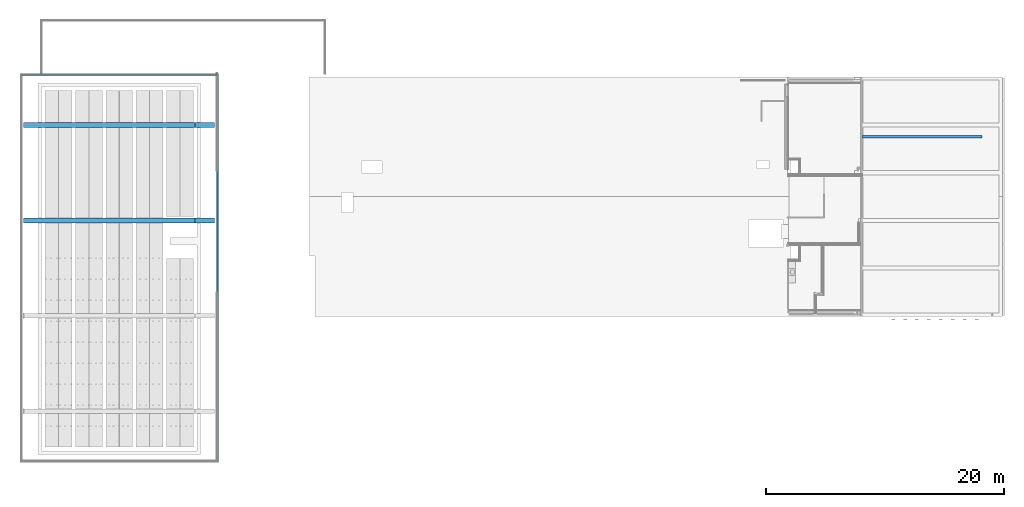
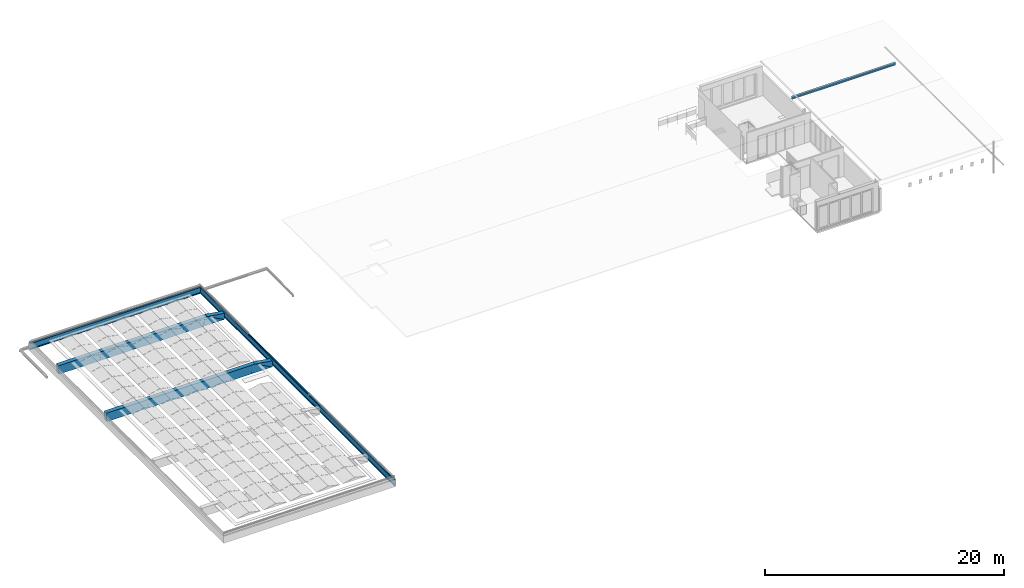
# One storey, part 3 of 25: 7 beams.
"""IFC2X3 building model written with IfcOpenShell, lengths in millimetres."""

from ifc_helpers import new_model, entity, si_unit, converted_unit, derived_unit, money_unit, direction, frame, origin_with_axes, place, context, subcontext, project, spatial, faceted_brep, material, type_object, element, save


model = new_model("IFC2X3")

# Units and contexts
model_context = context("Model", 3, precision=0.01, world=origin_with_axes(), true_north=direction((0.0, 1.0)))
body_context = subcontext(model_context, "Body", "Model", "MODEL_VIEW")
ifc_project = project(units=[si_unit("LENGTHUNIT", "METRE", prefix="MILLI"), si_unit("AREAUNIT", "SQUARE_METRE"), si_unit("VOLUMEUNIT", "CUBIC_METRE"), converted_unit("PLANEANGLEUNIT", "DEGREE", entity("IfcPlaneAngleMeasure", 0.0174532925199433), si_unit("PLANEANGLEUNIT", "RADIAN"), dimensions=[0, 0, 0, 0, 0, 0, 0]), money_unit("EUR"), converted_unit("TIMEUNIT", "Year", entity("IfcTimeMeasure", 31557600.0), si_unit("TIMEUNIT", "SECOND"), dimensions=[0, 0, 1, 0, 0, 0, 0]), si_unit("MASSUNIT", "GRAM", prefix="KILO"), si_unit("THERMODYNAMICTEMPERATUREUNIT", "DEGREE_CELSIUS"), si_unit("LUMINOUSINTENSITYUNIT", "LUMEN"), si_unit("ENERGYUNIT", "JOULE", prefix="MEGA"), derived_unit("THERMALCONDUCTANCEUNIT", [(si_unit("POWERUNIT", "WATT"), 1), (si_unit("LENGTHUNIT", "METRE"), -1), (si_unit("THERMODYNAMICTEMPERATUREUNIT", "KELVIN"), -1)]), derived_unit("SPECIFICHEATCAPACITYUNIT", [(si_unit("ENERGYUNIT", "JOULE"), 1), (si_unit("MASSUNIT", "GRAM", prefix="KILO"), -1), (si_unit("THERMODYNAMICTEMPERATUREUNIT", "KELVIN"), -1)]), derived_unit("MASSDENSITYUNIT", [(si_unit("MASSUNIT", "GRAM", prefix="KILO"), 1), (si_unit("VOLUMEUNIT", "CUBIC_METRE"), -1)])], contexts=[model_context])

# Site, building, storey
site_placement = place(None, origin_with_axes())
site = spatial("IfcSite", under=ifc_project, at=site_placement, Name="<site naam>", CompositionType="ELEMENT")
building_placement = place(site_placement, origin_with_axes())
building = spatial("IfcBuilding", under=site, at=building_placement, Name="<Naam gebouw>", CompositionType="ELEMENT")
storey_placement = place(building_placement, frame((0.0, 0.0, 9563.0), z_axis=(0.0, 0.0, 1.0), x_axis=(1.0, 0.0, 0.0)))
storey = spatial("IfcBuildingStorey", under=building, at=storey_placement, Name="03 3e tussenverdieping", CompositionType="ELEMENT", Elevation=9563.0)

# Beams
ifc_material_1 = material(Name="beton_gewapend_prefab")
beam_type_1 = type_object("IfcBeamType", Name="Betonbanden 160 x 760", PredefinedType="BEAM")
beam_1_placement = place(storey_placement, frame((4275.044468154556, -12274.99008809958, -992.9999592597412), z_axis=(0.0, 0.0, 1.0), x_axis=(1.0, 0.0, 0.0)))
element("IfcBeam", 1, at=beam_1_placement, inside=storey, type_object=beam_type_1, material=ifc_material_1, Name="41_Balk_Betonbanden", ObjectType="BEAM", context=body_context, shape_type="Brep", body=[
    faceted_brep([(4.298054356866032e-06, 19954.99008809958, -100.0000407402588), (4.298053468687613e-06, 19954.99008809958, -220.000040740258), (4.298053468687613e-06, 24274.99008809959, -220.000040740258), (4.298053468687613e-06, 24274.99008809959, -100.0000407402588), (4.298053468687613e-06, 32549.9900880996, -100.0000001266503), (4.298053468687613e-06, 32549.9900880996, -690.0000385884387), (4.298053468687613e-06, 0.0, -690.0000385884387), (4.298053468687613e-06, 0.0, -100.0000001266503), (59.99999757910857, 19954.99008809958, -100.0000407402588), (59.99999757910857, 19954.99008809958, -220.000040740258), (59.99999757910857, 24274.99008809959, -220.000040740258), (59.99999757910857, 24274.99008809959, -100.0000407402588), (-100.000007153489, 0.0, -100.0000001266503), (-100.000007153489, 32549.9900880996, -100.0000001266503), (-100.000007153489, 32549.9900880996, 0.0), (-60.00000030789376, 32549.9900880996, 0.0), (-60.00000030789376, 32549.9900880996, -30.00000230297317), (59.99999757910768, 32549.9900880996, -30.00000230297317), (59.99999757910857, 32549.9900880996, -759.9999375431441), (29.99999527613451, 32549.9900880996, -759.9999375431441), (29.99999527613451, 32549.9900880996, -730.0000145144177), (4.298053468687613e-06, 32549.9900880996, -730.0000145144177), (4.298053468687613e-06, 32549.9900880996, -759.9999375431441), (-60.00000030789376, 32549.9900880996, -759.9999375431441), (-60.00000030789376, 32549.9900880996, -660.0000280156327), (-29.9999980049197, 32549.9900880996, -660.0000280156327), (-29.9999980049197, 32549.9900880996, -690.0000385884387), (-29.9999980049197, 0.0, -690.0000385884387), (29.99999527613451, 0.0, -759.9999375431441), (59.99999757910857, 0.0, -759.9999375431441), (59.99999757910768, 0.0, -30.00000230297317), (-60.00000030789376, 0.0, -30.00000230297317), (-60.00000030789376, 0.0, 0.0), (-100.000007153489, 0.0, 0.0), (-29.9999980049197, 0.0, -660.0000280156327), (-60.00000030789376, 0.0, -660.0000280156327), (-60.00000030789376, 0.0, -759.9999375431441), (4.298053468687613e-06, 0.0, -759.9999375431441), (4.298053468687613e-06, 0.0, -730.0000145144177), (29.99999527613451, 0.0, -730.0000145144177)], [[[0, 1, 2, 3, 4, 5, 6, 7]], [[0, 8, 9, 1]], [[1, 9, 10, 2]], [[2, 10, 11, 3]], [[4, 3, 0, 7, 12, 13]], [[13, 14, 15, 16, 17, 18, 19, 20, 21, 22, 23, 24, 25, 26, 5, 4]], [[26, 27, 6, 5]], [[28, 29, 30, 31, 32, 33, 12, 7, 6, 27, 34, 35, 36, 37, 38, 39]], [[3, 11, 8, 0]], [[17, 30, 29, 18], [10, 9, 8, 11]], [[13, 12, 33, 14]], [[14, 33, 32, 15]], [[15, 32, 31, 16]], [[16, 31, 30, 17]], [[18, 29, 28, 19]], [[19, 28, 39, 20]], [[20, 39, 38, 21]], [[21, 38, 37, 22]], [[22, 37, 36, 23]], [[23, 36, 35, 24]], [[24, 35, 34, 25]], [[25, 34, 27, 26]]]),
])
beam_2_placement = place(storey_placement, frame((4275.044468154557, 20265.00000000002, -992.9999592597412), z_axis=(0.0, 0.0, 1.0), x_axis=(0.0, 1.0, 0.0)))
element("IfcBeam", 2, at=beam_2_placement, inside=storey, type_object=beam_type_1, material=ifc_material_1, Name="41_Balk_Betonbanden", ObjectType="BEAM", context=body_context, shape_type="Brep", body=[
    faceted_brep([(-60.00000030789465, 100.0000071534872, -30.00000230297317), (10.00000000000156, 100.000007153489, -30.00000230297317), (10.00000000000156, 60.00000030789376, -30.00000230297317), (10.00000000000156, -59.9999975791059, -30.00000230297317), (59.99999757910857, -59.9999975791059, -30.00000230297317), (59.99999757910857, 16600.04446573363, -30.00000230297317), (10.00000000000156, 16600.04446573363, -30.00000230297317), (10.00000000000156, 16480.04446784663, -30.00000230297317), (10.00000000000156, 16440.04446100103, -30.00000230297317), (-60.0000003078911, 16440.04446100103, -30.00000230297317), (10.00000000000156, 100.000007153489, -100.0000001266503), (-60.00000030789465, 100.000007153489, 0.0), (-100.0000071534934, 100.000007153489, 0.0), (-100.0000071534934, 100.000007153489, -100.0000001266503), (4.298051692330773e-06, 100.000007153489, -100.0000001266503), (10.00000000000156, 60.00000030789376, -730.0000145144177), (10.00000000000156, -59.99999757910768, -730.0000145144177), (10.00000000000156, -4.298052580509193e-06, -100.0000001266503), (10.00000000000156, -4.298052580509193e-06, -660.0000280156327), (10.00000000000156, 60.00000030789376, -660.0000280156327), (29.99999527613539, -59.9999975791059, -730.0000145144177), (29.99999527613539, -59.9999975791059, -759.9999375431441), (59.99999757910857, -59.9999975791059, -759.9999375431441), (59.99999757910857, 16600.04446573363, -759.9999375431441), (29.99999527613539, 16600.04446573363, -759.9999375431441), (29.99999527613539, 16600.04446573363, -730.0000145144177), (10.00000000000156, 16600.04446573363, -730.0000145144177), (10.00000000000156, 16540.04447245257, -100.0000001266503), (10.00000000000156, 16440.04446100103, -100.0000001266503), (10.00000000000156, 16480.04446784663, -730.0000145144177), (10.00000000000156, 16480.04446784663, -660.0000280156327), (10.00000000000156, 16540.04447245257, -660.0000280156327), (-100.0000071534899, 16440.04446100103, 0.0), (-60.0000003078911, 16440.04446100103, 0.0), (4.298055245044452e-06, 16440.04446100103, -100.0000001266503), (-100.0000071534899, 16440.04446100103, -100.0000001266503), (4.298051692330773e-06, -4.298052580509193e-06, -100.0000001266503), (4.298051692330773e-06, 60.00000030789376, -730.0000145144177), (4.298055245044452e-06, 16480.04446784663, -730.0000145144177), (4.298051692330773e-06, -4.298052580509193e-06, -660.0000280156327), (4.298051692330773e-06, 60.00000030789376, -660.0000280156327), (4.298051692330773e-06, 60.00000030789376, -759.9999375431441), (4.298051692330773e-06, 60.00000030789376, -690.0000385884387), (-29.99999800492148, 60.00000030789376, -690.0000385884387), (-29.99999800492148, 60.00000030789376, -660.0000280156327), (-60.00000030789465, 60.00000030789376, -660.0000280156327), (-60.00000030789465, 60.00000030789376, -759.9999375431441), (4.298055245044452e-06, 16540.04447245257, -100.0000001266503), (4.298051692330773e-06, 16480.04446784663, -660.0000280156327), (4.298055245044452e-06, 16480.04446784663, -759.9999375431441), (-60.0000003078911, 16480.04446784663, -759.9999375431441), (-60.0000003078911, 16480.04446784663, -660.0000280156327), (-29.99999800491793, 16480.04446784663, -660.0000280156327), (-29.99999800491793, 16480.04446784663, -690.0000385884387), (4.298055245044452e-06, 16480.04446784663, -690.0000385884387), (4.298051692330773e-06, 16540.04447245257, -660.0000280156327)], [[[0, 1, 2, 3, 4, 5, 6, 7, 8, 9]], [[10, 1, 0, 11, 12, 13, 14]], [[15, 16, 3, 2, 1, 10, 17, 18, 19]], [[4, 3, 16, 20, 21, 22]], [[23, 5, 4, 22]], [[24, 25, 26, 6, 5, 23]], [[27, 28, 8, 7, 6, 26, 29, 30, 31]], [[32, 33, 9, 8, 28, 34, 35]], [[33, 11, 0, 9]], [[32, 12, 11, 33]], [[35, 13, 12, 32]], [[34, 14, 13, 35]], [[10, 14, 36, 17]], [[16, 15, 37, 38, 29, 26, 25, 20]], [[17, 36, 39, 18]], [[18, 39, 40, 19]], [[41, 37, 15, 19, 40, 42, 43, 44, 45, 46]], [[25, 24, 21, 20]], [[24, 23, 22, 21]], [[28, 27, 47, 34]], [[48, 30, 29, 38, 49, 50, 51, 52, 53, 54]], [[31, 30, 48, 55]], [[27, 31, 55, 47]], [[39, 36, 14, 34, 47, 55, 48, 54, 42, 40]], [[38, 37, 41, 49]], [[53, 43, 42, 54]], [[52, 44, 43, 53]], [[51, 45, 44, 52]], [[50, 46, 45, 51]], [[49, 41, 46, 50]]]),
])
ifc_material_2 = material(Name="staal C")
beam_type_2 = type_object("IfcBeamType", Name="HEB220 220 x 220", PredefinedType="BEAM")
beam_3_placement = place(storey_placement, frame((58317.78284470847, 15024.75000000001, 2431.500000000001), z_axis=(0.0, 0.0, 1.0), x_axis=(0.0, -1.0, 0.0)))
element("IfcBeam", 3, at=beam_3_placement, inside=storey, type_object=beam_type_2, material=ifc_material_2, Name="28_Balk_HEB220", ObjectType="BEAM", context=body_context, shape_type="Brep", body=[
    faceted_brep([(-109.9999999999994, 0.0, 115.5000000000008), (-110.0000000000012, 10057.26566737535, 115.5000000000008), (-110.0000000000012, 10057.26566737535, 99.50000000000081), (-109.9999999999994, 0.0, 99.50000000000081), (109.9999999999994, 0.0, 115.5000000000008), (109.9999999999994, 10057.26566737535, 115.5000000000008), (109.9999999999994, 10057.26566737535, 99.50000000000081), (4.749999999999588, 10057.26566737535, 99.50000000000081), (4.749999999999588, 10057.26566737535, -88.4999999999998), (109.9999999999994, 10057.26566737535, -88.4999999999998), (109.9999999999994, 10057.26566737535, -104.4999999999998), (-110.0000000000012, 10057.26566737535, -104.4999999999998), (-110.0000000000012, 10057.26566737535, -88.4999999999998), (-4.750000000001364, 10057.26566737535, -88.4999999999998), (-4.750000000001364, 10057.26566737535, 99.50000000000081), (-4.749999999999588, 0.0, 99.50000000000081), (-4.749999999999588, 0.0, -88.4999999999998), (-109.9999999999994, 0.0, -88.4999999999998), (-109.9999999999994, 0.0, -104.4999999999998), (109.9999999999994, 0.0, -104.4999999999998), (109.9999999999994, 0.0, -88.4999999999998), (4.749999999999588, 0.0, -88.4999999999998), (4.749999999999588, 0.0, 99.50000000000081), (109.9999999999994, 0.0, 99.50000000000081)], [[[0, 1, 2, 3]], [[4, 5, 1, 0]], [[2, 1, 5, 6, 7, 8, 9, 10, 11, 12, 13, 14]], [[3, 2, 14, 15]], [[4, 0, 3, 15, 16, 17, 18, 19, 20, 21, 22, 23]], [[23, 6, 5, 4]], [[22, 7, 6, 23]], [[21, 8, 7, 22]], [[20, 9, 8, 21]], [[19, 10, 9, 20]], [[18, 11, 10, 19]], [[17, 12, 11, 18]], [[16, 13, 12, 17]], [[15, 14, 13, 16]]]),
])
beam_type_3 = type_object("IfcBeamType", Name="beton_gewapend_prefab 400 x 880", PredefinedType="BEAM")
beam_4_placement = place(storey_placement, frame((-10349.99999999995, 8000.000000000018, -773.0000000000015), z_axis=(0.0, 0.0, 1.0), x_axis=(0.0, -1.0, 0.0)))
element("IfcBeam", 4, at=beam_4_placement, inside=storey, type_object=beam_type_3, material=ifc_material_1, Name="28_Balk_beton_gewapend_prefab", ObjectType="BEAM", context=body_context, shape_type="Brep", body=[
    faceted_brep([(200.0000000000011, -1625.067700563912, -879.9999999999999), (199.9999999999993, 14350.00064523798, -879.9999999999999), (200.0000000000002, 12700.0, 0.0), (200.0000000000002, -1685.000000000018, 0.0), (199.9999999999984, 12293.49995746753, -730.0002447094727), (199.9999999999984, 12293.49999705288, -715.9002124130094), (199.9999999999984, 12345.30019652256, -715.9002124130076), (199.9999999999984, 12345.30019652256, -484.0999999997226), (199.9999999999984, 12293.49999705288, -484.0999999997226), (199.9999999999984, 12293.49995746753, -469.9999999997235), (199.9999999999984, 12406.5004355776, -469.9999999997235), (199.9999999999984, 12406.50039599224, -484.0999999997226), (199.9999999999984, 12354.70019652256, -484.0999999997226), (199.9999999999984, 12354.70019652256, -715.9002124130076), (199.9999999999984, 12406.50039599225, -715.9002124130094), (199.9999999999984, 12406.5004355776, -730.0002447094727), (200.0000000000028, 10293.49999705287, -715.9002124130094), (200.0000000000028, 10345.30019652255, -715.9002124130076), (200.0000000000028, 10345.30019652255, -484.0999999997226), (200.0000000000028, 10293.49999705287, -484.0999999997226), (200.0000000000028, 10293.49995746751, -469.9999999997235), (200.0000000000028, 10406.50043557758, -469.9999999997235), (200.0000000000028, 10406.50039599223, -484.0999999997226), (200.0000000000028, 10354.70019652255, -484.0999999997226), (200.0000000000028, 10354.70019652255, -715.9002124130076), (200.0000000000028, 10406.50039599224, -715.9002124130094), (200.0000000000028, 10406.50043557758, -730.0002447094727), (200.0000000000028, 10293.49995746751, -730.0002447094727), (200.0000000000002, 6345.299999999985, -715.9002124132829), (200.0000000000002, 6345.299999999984, -484.099999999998), (200.0000000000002, 6293.499800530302, -484.099999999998), (200.0000000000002, 6293.499760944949, -469.9999999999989), (200.0000000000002, 6406.500239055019, -469.9999999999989), (200.0000000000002, 6406.500199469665, -484.099999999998), (200.0000000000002, 6354.699999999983, -484.099999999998), (200.0000000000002, 6354.699999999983, -715.9002124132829), (200.0000000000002, 6406.500199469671, -715.9002124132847), (200.0000000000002, 6406.500239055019, -730.000244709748), (200.0000000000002, 6293.499760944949, -730.000244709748), (200.0000000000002, 6293.499800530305, -715.9002124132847), (199.9999999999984, 2345.300196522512, -484.0999992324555), (199.9999999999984, 2293.499997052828, -484.0999992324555), (199.9999999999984, 2293.499957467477, -469.9999992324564), (199.9999999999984, 2406.500435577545, -469.9999992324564), (199.9999999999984, 2406.500395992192, -484.0999992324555), (199.9999999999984, 2354.700196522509, -484.0999992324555), (199.9999999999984, 2354.700196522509, -715.9002116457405), (199.9999999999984, 2406.500395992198, -715.9002116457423), (199.9999999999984, 2406.500435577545, -730.0002439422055), (199.9999999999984, 2293.499957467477, -730.0002439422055), (199.9999999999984, 2293.499997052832, -715.9002116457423), (199.9999999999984, 2345.300196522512, -715.9002116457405), (-199.9999999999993, -1625.067700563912, -879.9999999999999), (-199.9999999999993, 14350.00064523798, -879.9999999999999), (-200.0000000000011, 12700.0, 0.0), (-199.9999999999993, -1685.000000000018, 0.0), (-200.0000000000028, 12293.49995746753, -730.0002447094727), (-200.0000000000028, 12293.49999705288, -715.9002124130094), (-200.0000000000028, 12345.30019652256, -715.9002124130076), (-200.0000000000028, 12345.30019652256, -484.0999999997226), (-200.0000000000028, 12293.49999705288, -484.0999999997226), (-200.0000000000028, 12293.49995746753, -469.9999999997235), (-200.0000000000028, 12406.5004355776, -469.9999999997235), (-200.0000000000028, 12406.50039599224, -484.0999999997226), (-200.0000000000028, 12354.70019652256, -484.0999999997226), (-200.0000000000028, 12354.70019652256, -715.9002124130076), (-200.0000000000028, 12406.50039599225, -715.9002124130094), (-200.0000000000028, 12406.5004355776, -730.0002447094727), (-199.9999999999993, 10345.30019652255, -715.9002124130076), (-199.9999999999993, 10293.49999705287, -715.9002124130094), (-199.9999999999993, 10345.30019652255, -484.0999999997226), (-199.9999999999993, 10293.49999705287, -484.0999999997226), (-199.9999999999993, 10293.49995746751, -469.9999999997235), (-199.9999999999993, 10406.50043557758, -469.9999999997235), (-199.9999999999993, 10406.50039599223, -484.0999999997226), (-199.9999999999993, 10354.70019652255, -484.0999999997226), (-199.9999999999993, 10354.70019652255, -715.9002124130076), (-199.9999999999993, 10406.50039599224, -715.9002124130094), (-199.9999999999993, 10406.50043557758, -730.0002447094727), (-199.9999999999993, 10293.49995746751, -730.0002447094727), (-200.0000000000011, 6345.299999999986, -715.9002124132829), (-200.0000000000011, 6345.299999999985, -484.099999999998), (-200.0000000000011, 6293.499800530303, -484.099999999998), (-200.0000000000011, 6293.49976094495, -469.9999999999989), (-200.0000000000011, 6406.500239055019, -469.9999999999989), (-200.0000000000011, 6406.500199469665, -484.099999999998), (-200.0000000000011, 6354.699999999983, -484.099999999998), (-200.0000000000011, 6354.699999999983, -715.9002124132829), (-200.0000000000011, 6406.500199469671, -715.9002124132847), (-200.0000000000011, 6406.500239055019, -730.000244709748), (-200.0000000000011, 6293.49976094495, -730.000244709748), (-200.0000000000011, 6293.499800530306, -715.9002124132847), (-200.0000000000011, 2345.300196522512, -484.0999992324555), (-200.0000000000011, 2293.499997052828, -484.0999992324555), (-200.0000000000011, 2293.499957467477, -469.9999992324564), (-200.0000000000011, 2406.500435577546, -469.9999992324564), (-200.0000000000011, 2406.500395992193, -484.0999992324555), (-200.0000000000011, 2354.70019652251, -484.0999992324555), (-200.0000000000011, 2354.70019652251, -715.9002116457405), (-200.0000000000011, 2406.500395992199, -715.9002116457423), (-200.0000000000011, 2406.500435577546, -730.0002439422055), (-200.0000000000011, 2293.499957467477, -730.0002439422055), (-200.0000000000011, 2293.499997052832, -715.9002116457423), (-200.0000000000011, 2345.300196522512, -715.9002116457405)], [[[0, 1, 2, 3], [4, 5, 6, 7, 8, 9, 10, 11, 12, 13, 14, 15], [16, 17, 18, 19, 20, 21, 22, 23, 24, 25, 26, 27], [28, 29, 30, 31, 32, 33, 34, 35, 36, 37, 38, 39], [40, 41, 42, 43, 44, 45, 46, 47, 48, 49, 50, 51]], [[52, 53, 1, 0]], [[1, 53, 54, 2]], [[3, 2, 54, 55]], [[55, 52, 0, 3]], [[56, 57, 5, 4]], [[57, 58, 6, 5]], [[58, 59, 7, 6]], [[59, 60, 8, 7]], [[60, 61, 9, 8]], [[61, 62, 10, 9]], [[62, 63, 11, 10]], [[63, 64, 12, 11]], [[64, 65, 13, 12]], [[65, 66, 14, 13]], [[66, 67, 15, 14]], [[67, 56, 4, 15]], [[68, 17, 16, 69]], [[70, 18, 17, 68]], [[71, 19, 18, 70]], [[72, 20, 19, 71]], [[73, 21, 20, 72]], [[74, 22, 21, 73]], [[75, 23, 22, 74]], [[76, 24, 23, 75]], [[77, 25, 24, 76]], [[78, 26, 25, 77]], [[79, 27, 26, 78]], [[69, 16, 27, 79]], [[29, 28, 80, 81]], [[30, 29, 81, 82]], [[31, 30, 82, 83]], [[32, 31, 83, 84]], [[33, 32, 84, 85]], [[34, 33, 85, 86]], [[35, 34, 86, 87]], [[36, 35, 87, 88]], [[37, 36, 88, 89]], [[38, 37, 89, 90]], [[39, 38, 90, 91]], [[28, 39, 91, 80]], [[40, 92, 93, 41]], [[41, 93, 94, 42]], [[42, 94, 95, 43]], [[43, 95, 96, 44]], [[44, 96, 97, 45]], [[45, 97, 98, 46]], [[46, 98, 99, 47]], [[47, 99, 100, 48]], [[48, 100, 101, 49]], [[49, 101, 102, 50]], [[50, 102, 103, 51]], [[51, 103, 92, 40]], [[55, 54, 53, 52], [56, 67, 66, 65, 64, 63, 62, 61, 60, 59, 58, 57], [78, 77, 76, 75, 74, 73, 72, 71, 70, 68, 69, 79], [88, 87, 86, 85, 84, 83, 82, 81, 80, 91, 90, 89], [98, 97, 96, 95, 94, 93, 92, 103, 102, 101, 100, 99]]]),
])
beam_5_placement = place(storey_placement, frame((-10349.99999999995, 16000.00000000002, -773.0000000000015), z_axis=(0.0, 0.0, 1.0), x_axis=(0.0, -1.0, 0.0)))
element("IfcBeam", 5, at=beam_5_placement, inside=storey, type_object=beam_type_3, material=ifc_material_1, Name="28_Balk_beton_gewapend_prefab", ObjectType="BEAM", context=body_context, shape_type="Brep", body=[
    faceted_brep([(199.9999999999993, -1625.067700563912, -879.9999999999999), (199.9999999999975, 14350.00064523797, -879.9999999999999), (199.9999999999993, 12700.0, 0.0), (199.9999999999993, -1685.000000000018, 0.0), (199.9999999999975, 12293.49995746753, -730.0002447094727), (199.9999999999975, 12293.49999705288, -715.9002124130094), (199.9999999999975, 12345.30019652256, -715.9002124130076), (199.9999999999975, 12345.30019652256, -484.0999999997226), (199.9999999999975, 12293.49999705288, -484.0999999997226), (199.9999999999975, 12293.49995746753, -469.9999999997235), (199.9999999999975, 12406.5004355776, -469.9999999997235), (199.9999999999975, 12406.50039599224, -484.0999999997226), (199.9999999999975, 12354.70019652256, -484.0999999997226), (199.9999999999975, 12354.70019652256, -715.9002124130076), (199.9999999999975, 12406.50039599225, -715.9002124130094), (199.9999999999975, 12406.5004355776, -730.0002447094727), (199.9999999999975, 10293.49999705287, -715.9002124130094), (199.9999999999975, 10345.30019652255, -715.9002124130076), (199.9999999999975, 10345.30019652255, -484.0999999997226), (199.9999999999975, 10293.49999705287, -484.0999999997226), (199.9999999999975, 10293.49995746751, -469.9999999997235), (199.9999999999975, 10406.50043557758, -469.9999999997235), (199.9999999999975, 10406.50039599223, -484.0999999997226), (199.9999999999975, 10354.70019652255, -484.0999999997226), (199.9999999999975, 10354.70019652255, -715.9002124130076), (199.9999999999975, 10406.50039599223, -715.9002124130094), (199.9999999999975, 10406.50043557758, -730.0002447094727), (199.9999999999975, 10293.49995746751, -730.0002447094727), (199.9999999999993, 6345.299999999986, -715.9002124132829), (199.9999999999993, 6345.299999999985, -484.099999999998), (199.9999999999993, 6293.499800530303, -484.099999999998), (199.9999999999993, 6293.49976094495, -469.9999999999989), (199.9999999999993, 6406.500239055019, -469.9999999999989), (199.9999999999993, 6406.500199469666, -484.099999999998), (199.9999999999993, 6354.699999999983, -484.099999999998), (199.9999999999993, 6354.699999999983, -715.9002124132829), (199.9999999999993, 6406.500199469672, -715.9002124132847), (199.9999999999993, 6406.500239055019, -730.000244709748), (199.9999999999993, 6293.49976094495, -730.000244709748), (199.9999999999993, 6293.499800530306, -715.9002124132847), (199.9999999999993, 2345.300196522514, -484.0999992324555), (199.9999999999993, 2293.49999705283, -484.0999992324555), (199.9999999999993, 2293.499957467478, -469.9999992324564), (199.9999999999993, 2406.500435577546, -469.9999992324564), (199.9999999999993, 2406.500395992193, -484.0999992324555), (199.9999999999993, 2354.70019652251, -484.0999992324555), (199.9999999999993, 2354.70019652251, -715.9002116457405), (199.9999999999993, 2406.500395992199, -715.9002116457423), (199.9999999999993, 2406.500435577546, -730.0002439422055), (199.9999999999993, 2293.499957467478, -730.0002439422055), (199.9999999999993, 2293.499997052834, -715.9002116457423), (199.9999999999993, 2345.300196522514, -715.9002116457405), (-199.9999999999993, -1625.067700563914, -879.9999999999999), (-199.9999999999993, 14350.00064523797, -879.9999999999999), (-199.9999999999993, 12700.0, 0.0), (-199.9999999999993, -1685.00000000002, 0.0), (-200.0000000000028, 12293.49995746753, -730.0002447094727), (-200.0000000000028, 12293.49999705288, -715.9002124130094), (-200.0000000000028, 12345.30019652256, -715.9002124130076), (-200.0000000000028, 12345.30019652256, -484.0999999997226), (-200.0000000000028, 12293.49999705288, -484.0999999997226), (-200.0000000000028, 12293.49995746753, -469.9999999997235), (-200.0000000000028, 12406.5004355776, -469.9999999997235), (-200.0000000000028, 12406.50039599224, -484.0999999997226), (-200.0000000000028, 12354.70019652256, -484.0999999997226), (-200.0000000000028, 12354.70019652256, -715.9002124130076), (-200.0000000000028, 12406.50039599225, -715.9002124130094), (-200.0000000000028, 12406.5004355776, -730.0002447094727), (-200.0000000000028, 10345.30019652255, -715.9002124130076), (-200.0000000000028, 10293.49999705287, -715.9002124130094), (-200.0000000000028, 10345.30019652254, -484.0999999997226), (-200.0000000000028, 10293.49999705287, -484.0999999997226), (-200.0000000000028, 10293.49995746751, -469.9999999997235), (-200.0000000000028, 10406.50043557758, -469.9999999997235), (-200.0000000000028, 10406.50039599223, -484.0999999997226), (-200.0000000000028, 10354.70019652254, -484.0999999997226), (-200.0000000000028, 10354.70019652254, -715.9002124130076), (-200.0000000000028, 10406.50039599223, -715.9002124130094), (-200.0000000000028, 10406.50043557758, -730.0002447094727), (-200.0000000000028, 10293.49995746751, -730.0002447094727), (-200.0000000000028, 6345.299999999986, -715.9002124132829), (-200.0000000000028, 6345.299999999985, -484.099999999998), (-200.0000000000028, 6293.499800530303, -484.099999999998), (-200.0000000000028, 6293.49976094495, -469.9999999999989), (-200.0000000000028, 6406.500239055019, -469.9999999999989), (-200.0000000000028, 6406.500199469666, -484.099999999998), (-200.0000000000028, 6354.699999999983, -484.099999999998), (-200.0000000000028, 6354.699999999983, -715.9002124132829), (-200.0000000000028, 6406.500199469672, -715.9002124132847), (-200.0000000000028, 6406.500239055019, -730.000244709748), (-200.0000000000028, 6293.49976094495, -730.000244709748), (-200.0000000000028, 6293.499800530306, -715.9002124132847), (-199.9999999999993, 2345.300196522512, -484.0999992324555), (-199.9999999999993, 2293.499997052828, -484.0999992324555), (-199.9999999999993, 2293.499957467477, -469.9999992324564), (-199.9999999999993, 2406.500435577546, -469.9999992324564), (-199.9999999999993, 2406.500395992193, -484.0999992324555), (-199.9999999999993, 2354.70019652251, -484.0999992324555), (-199.9999999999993, 2354.70019652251, -715.9002116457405), (-199.9999999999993, 2406.500395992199, -715.9002116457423), (-199.9999999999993, 2406.500435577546, -730.0002439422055), (-199.9999999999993, 2293.499957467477, -730.0002439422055), (-199.9999999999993, 2293.499997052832, -715.9002116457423), (-199.9999999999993, 2345.300196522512, -715.9002116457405)], [[[0, 1, 2, 3], [4, 5, 6, 7, 8, 9, 10, 11, 12, 13, 14, 15], [16, 17, 18, 19, 20, 21, 22, 23, 24, 25, 26, 27], [28, 29, 30, 31, 32, 33, 34, 35, 36, 37, 38, 39], [40, 41, 42, 43, 44, 45, 46, 47, 48, 49, 50, 51]], [[52, 53, 1, 0]], [[1, 53, 54, 2]], [[3, 2, 54, 55]], [[55, 52, 0, 3]], [[56, 57, 5, 4]], [[57, 58, 6, 5]], [[58, 59, 7, 6]], [[59, 60, 8, 7]], [[60, 61, 9, 8]], [[61, 62, 10, 9]], [[62, 63, 11, 10]], [[63, 64, 12, 11]], [[64, 65, 13, 12]], [[65, 66, 14, 13]], [[66, 67, 15, 14]], [[67, 56, 4, 15]], [[68, 17, 16, 69]], [[70, 18, 17, 68]], [[71, 19, 18, 70]], [[72, 20, 19, 71]], [[73, 21, 20, 72]], [[74, 22, 21, 73]], [[75, 23, 22, 74]], [[76, 24, 23, 75]], [[77, 25, 24, 76]], [[78, 26, 25, 77]], [[79, 27, 26, 78]], [[69, 16, 27, 79]], [[29, 28, 80, 81]], [[30, 29, 81, 82]], [[31, 30, 82, 83]], [[32, 31, 83, 84]], [[33, 32, 84, 85]], [[34, 33, 85, 86]], [[35, 34, 86, 87]], [[36, 35, 87, 88]], [[37, 36, 88, 89]], [[38, 37, 89, 90]], [[39, 38, 90, 91]], [[28, 39, 91, 80]], [[40, 92, 93, 41]], [[41, 93, 94, 42]], [[42, 94, 95, 43]], [[43, 95, 96, 44]], [[44, 96, 97, 45]], [[45, 97, 98, 46]], [[46, 98, 99, 47]], [[47, 99, 100, 48]], [[48, 100, 101, 49]], [[49, 101, 102, 50]], [[50, 102, 103, 51]], [[51, 103, 92, 40]], [[55, 54, 53, 52], [56, 67, 66, 65, 64, 63, 62, 61, 60, 59, 58, 57], [78, 77, 76, 75, 74, 73, 72, 71, 70, 68, 69, 79], [88, 87, 86, 85, 84, 83, 82, 81, 80, 91, 90, 89], [98, 97, 96, 95, 94, 93, 92, 103, 102, 101, 100, 99]]]),
])
beam_type_4 = type_object("IfcBeamType", Name="beton_gewapend_prefab 400 x 900", PredefinedType="BEAM")
beam_6_placement = place(storey_placement, frame((2350.000000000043, 16000.00000000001, -773.0000000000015), z_axis=(0.0, 0.0, 1.0), x_axis=(0.0, -1.0, 0.0)))
element("IfcBeam", 6, at=beam_6_placement, inside=storey, type_object=beam_type_4, material=ifc_material_1, Name="28_Balk_beton_gewapend_prefab", ObjectType="BEAM", context=body_context, shape_type="Brep", body=[
    faceted_brep([(-199.9999999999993, 1649.999999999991, -879.9996558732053), (-199.9999999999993, 0.0, 0.0), (-199.9999999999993, 1649.999999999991, -246.1932683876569), (199.9999999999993, 0.0, 0.0), (199.9999999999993, 1649.999999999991, -879.9996558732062), (199.9999999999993, 1649.999999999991, -246.1932683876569)], [[[0, 1, 2]], [[3, 1, 0, 4]], [[1, 3, 5, 2]], [[0, 2, 5, 4]], [[4, 5, 3]]]),
])
beam_7_placement = place(storey_placement, frame((2350.000000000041, 8000.000000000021, -773.0000000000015), z_axis=(0.0, 0.0, 1.0), x_axis=(0.0, -1.0, 0.0)))
element("IfcBeam", 7, at=beam_7_placement, inside=storey, type_object=beam_type_4, material=ifc_material_1, Name="28_Balk_beton_gewapend_prefab", ObjectType="BEAM", context=body_context, shape_type="Brep", body=[
    faceted_brep([(-199.9999999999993, 1649.999999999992, -879.9996558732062), (-199.9999999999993, 0.0, 0.0), (-199.9999999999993, 1649.999999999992, -246.1932683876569), (200.0000000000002, 0.0, 0.0), (200.0000000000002, 1649.999999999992, -879.9996558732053), (200.0000000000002, 1649.999999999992, -246.1932683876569)], [[[0, 1, 2]], [[3, 1, 0, 4]], [[1, 3, 5, 2]], [[0, 2, 5, 4]], [[4, 5, 3]]]),
])

save(model, "model.ifc")
